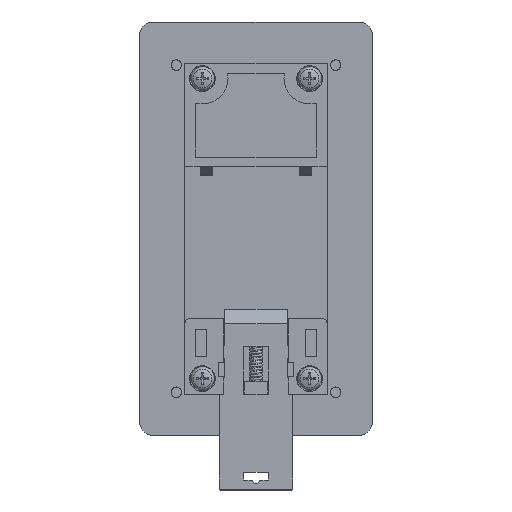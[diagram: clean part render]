
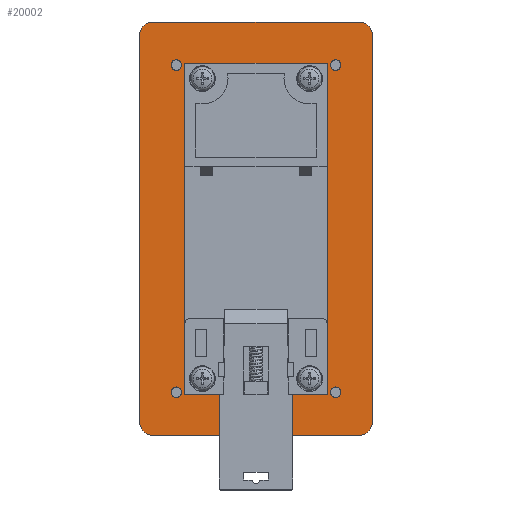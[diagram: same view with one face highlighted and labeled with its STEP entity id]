
A CAD part, top view. The second image highlights one B-rep face of the part: STEP entity #20002.
In plain terms, the highlighted planar face has unit normal (0, 0, 1).
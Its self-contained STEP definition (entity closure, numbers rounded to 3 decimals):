
#449=FACE_BOUND('',#3483,.T.);
#450=FACE_BOUND('',#3484,.T.);
#451=FACE_BOUND('',#3485,.T.);
#452=FACE_BOUND('',#3486,.T.);
#453=FACE_BOUND('',#3487,.T.);
#864=CIRCLE('',#21429,3.);
#866=CIRCLE('',#21433,3.);
#868=CIRCLE('',#21437,3.);
#870=CIRCLE('',#21441,3.);
#872=CIRCLE('',#21445,1.23);
#873=CIRCLE('',#21447,1.23);
#874=CIRCLE('',#21449,1.23);
#875=CIRCLE('',#21450,1.23);
#1285=PLANE('',#21448);
#2242=FACE_OUTER_BOUND('',#3482,.T.);
#3482=EDGE_LOOP('',(#14680,#14681,#14682,#14683,#14684,#14685,#14686,#14687));
#3483=EDGE_LOOP('',(#14688));
#3484=EDGE_LOOP('',(#14689));
#3485=EDGE_LOOP('',(#14690));
#3486=EDGE_LOOP('',(#14691));
#3487=EDGE_LOOP('',(#14692,#14693,#14694,#14695));
#4503=LINE('',#28394,#6344);
#4515=LINE('',#28419,#6356);
#4526=LINE('',#28440,#6367);
#4674=LINE('',#28926,#6515);
#4868=LINE('',#32571,#6709);
#4871=LINE('',#32582,#6712);
#4875=LINE('',#32594,#6716);
#4879=LINE('',#32606,#6720);
#6344=VECTOR('',#22764,33.);
#6356=VECTOR('',#22778,33.);
#6367=VECTOR('',#22791,76.9);
#6515=VECTOR('',#23117,76.9);
#6709=VECTOR('',#24219,48.);
#6712=VECTOR('',#24230,90.);
#6716=VECTOR('',#24242,48.);
#6720=VECTOR('',#24254,90.);
#8298=VERTEX_POINT('',#28390);
#8300=VERTEX_POINT('',#28393);
#8311=VERTEX_POINT('',#28416);
#8312=VERTEX_POINT('',#28418);
#8823=VERTEX_POINT('',#32565);
#8825=VERTEX_POINT('',#32569);
#8827=VERTEX_POINT('',#32575);
#8828=VERTEX_POINT('',#32579);
#8831=VERTEX_POINT('',#32587);
#8832=VERTEX_POINT('',#32591);
#8835=VERTEX_POINT('',#32599);
#8836=VERTEX_POINT('',#32603);
#8839=VERTEX_POINT('',#32615);
#8840=VERTEX_POINT('',#32618);
#8841=VERTEX_POINT('',#32621);
#8842=VERTEX_POINT('',#32623);
#10202=EDGE_CURVE('',#8300,#8298,#4503,.T.);
#10214=EDGE_CURVE('',#8312,#8311,#4515,.T.);
#10225=EDGE_CURVE('',#8298,#8312,#4526,.T.);
#10401=EDGE_CURVE('',#8311,#8300,#4674,.T.);
#10952=EDGE_CURVE('',#8823,#8825,#4868,.T.);
#10955=EDGE_CURVE('',#8827,#8825,#864,.T.);
#10957=EDGE_CURVE('',#8827,#8828,#4871,.T.);
#10961=EDGE_CURVE('',#8831,#8828,#866,.T.);
#10963=EDGE_CURVE('',#8831,#8832,#4875,.T.);
#10967=EDGE_CURVE('',#8835,#8832,#868,.T.);
#10969=EDGE_CURVE('',#8835,#8836,#4879,.T.);
#10972=EDGE_CURVE('',#8823,#8836,#870,.T.);
#10974=EDGE_CURVE('',#8839,#8839,#872,.T.);
#10975=EDGE_CURVE('',#8840,#8840,#873,.T.);
#10976=EDGE_CURVE('',#8841,#8841,#874,.T.);
#10977=EDGE_CURVE('',#8842,#8842,#875,.T.);
#14680=ORIENTED_EDGE('',*,*,#10972,.F.);
#14681=ORIENTED_EDGE('',*,*,#10952,.T.);
#14682=ORIENTED_EDGE('',*,*,#10955,.F.);
#14683=ORIENTED_EDGE('',*,*,#10957,.T.);
#14684=ORIENTED_EDGE('',*,*,#10961,.F.);
#14685=ORIENTED_EDGE('',*,*,#10963,.T.);
#14686=ORIENTED_EDGE('',*,*,#10967,.F.);
#14687=ORIENTED_EDGE('',*,*,#10969,.T.);
#14688=ORIENTED_EDGE('',*,*,#10976,.T.);
#14689=ORIENTED_EDGE('',*,*,#10977,.T.);
#14690=ORIENTED_EDGE('',*,*,#10974,.T.);
#14691=ORIENTED_EDGE('',*,*,#10975,.T.);
#14692=ORIENTED_EDGE('',*,*,#10225,.T.);
#14693=ORIENTED_EDGE('',*,*,#10214,.T.);
#14694=ORIENTED_EDGE('',*,*,#10401,.T.);
#14695=ORIENTED_EDGE('',*,*,#10202,.T.);
#20002=ADVANCED_FACE('',(#2242,#449,#450,#451,#452,#453),#1285,.F.);
#21429=AXIS2_PLACEMENT_3D('',#32577,#24225,#24226);
#21433=AXIS2_PLACEMENT_3D('',#32589,#24237,#24238);
#21437=AXIS2_PLACEMENT_3D('',#32601,#24249,#24250);
#21441=AXIS2_PLACEMENT_3D('',#32610,#24260,#24261);
#21445=AXIS2_PLACEMENT_3D('',#32616,#24268,#24269);
#21447=AXIS2_PLACEMENT_3D('',#32619,#24272,#24273);
#21448=AXIS2_PLACEMENT_3D('',#32620,#24274,#24275);
#21449=AXIS2_PLACEMENT_3D('',#32622,#24276,#24277);
#21450=AXIS2_PLACEMENT_3D('',#32624,#24278,#24279);
#22764=DIRECTION('',(1.,0.,0.));
#22778=DIRECTION('',(-1.,0.,0.));
#22791=DIRECTION('',(0.,-1.,0.));
#23117=DIRECTION('',(0.,1.,0.));
#24219=DIRECTION('',(1.,0.,0.));
#24225=DIRECTION('center_axis',(0.,0.,
-1.));
#24226=DIRECTION('ref_axis',(0.707,-0.707,0.));
#24230=DIRECTION('',(0.,1.,0.));
#24237=DIRECTION('center_axis',(0.,0.,
-1.));
#24238=DIRECTION('ref_axis',(0.707,0.707,0.));
#24242=DIRECTION('',(-1.,0.,0.));
#24249=DIRECTION('center_axis',(0.,0.,
-1.));
#24250=DIRECTION('ref_axis',(-0.707,0.707,0.));
#24254=DIRECTION('',(0.,-1.,0.));
#24260=DIRECTION('center_axis',(0.,0.,
-1.));
#24261=DIRECTION('ref_axis',(-0.707,-0.707,0.));
#24268=DIRECTION('center_axis',(0.,0.,
-1.));
#24269=DIRECTION('ref_axis',(0.,1.,0.));
#24272=DIRECTION('center_axis',(0.,0.,
-1.));
#24273=DIRECTION('ref_axis',(0.,1.,0.));
#24274=DIRECTION('center_axis',(0.,0.,
-1.));
#24275=DIRECTION('ref_axis',(0.,1.,0.));
#24276=DIRECTION('center_axis',(0.,0.,
-1.));
#24277=DIRECTION('ref_axis',(0.,1.,0.));
#24278=DIRECTION('center_axis',(0.,0.,
-1.));
#24279=DIRECTION('ref_axis',(0.,1.,0.));
#28390=CARTESIAN_POINT('',(16.5,38.45,0.));
#28393=CARTESIAN_POINT('',(-16.5,38.45,0.));
#28394=CARTESIAN_POINT('',(-16.5,38.45,0.));
#28416=CARTESIAN_POINT('',(-16.5,-38.45,0.));
#28418=CARTESIAN_POINT('',(16.5,-38.45,0.));
#28419=CARTESIAN_POINT('',(16.5,-38.45,0.));
#28440=CARTESIAN_POINT('',(16.5,38.45,0.));
#28926=CARTESIAN_POINT('',(-16.5,-38.45,0.));
#32565=CARTESIAN_POINT('',(-24.,-47.991,0.));
#32569=CARTESIAN_POINT('',(24.,-47.991,0.));
#32571=CARTESIAN_POINT('',(-27.,-47.991,0.));
#32575=CARTESIAN_POINT('',(27.,-44.991,0.));
#32577=CARTESIAN_POINT('Origin',(24.,-44.991,0.));
#32579=CARTESIAN_POINT('',(27.,45.009,0.));
#32582=CARTESIAN_POINT('',(27.,-47.991,0.));
#32587=CARTESIAN_POINT('',(24.,48.009,0.));
#32589=CARTESIAN_POINT('Origin',(24.,45.009,0.));
#32591=CARTESIAN_POINT('',(-24.,48.009,0.));
#32594=CARTESIAN_POINT('',(27.,48.009,0.));
#32599=CARTESIAN_POINT('',(-27.,45.009,0.));
#32601=CARTESIAN_POINT('Origin',(-24.,45.009,0.));
#32603=CARTESIAN_POINT('',(-27.,-44.991,0.));
#32606=CARTESIAN_POINT('',(-27.,48.009,0.));
#32610=CARTESIAN_POINT('Origin',(-24.,-44.991,0.));
#32615=CARTESIAN_POINT('',(18.5,-39.221,0.));
#32616=CARTESIAN_POINT('Origin',(18.5,-37.991,0.));
#32618=CARTESIAN_POINT('',(-18.5,36.779,0.));
#32619=CARTESIAN_POINT('Origin',(-18.5,38.009,0.));
#32620=CARTESIAN_POINT('Origin',(0.,0.009,
0.));
#32621=CARTESIAN_POINT('',(-18.5,-39.221,0.));
#32622=CARTESIAN_POINT('Origin',(-18.5,-37.991,0.));
#32623=CARTESIAN_POINT('',(18.5,36.779,0.));
#32624=CARTESIAN_POINT('Origin',(18.5,38.009,0.));
